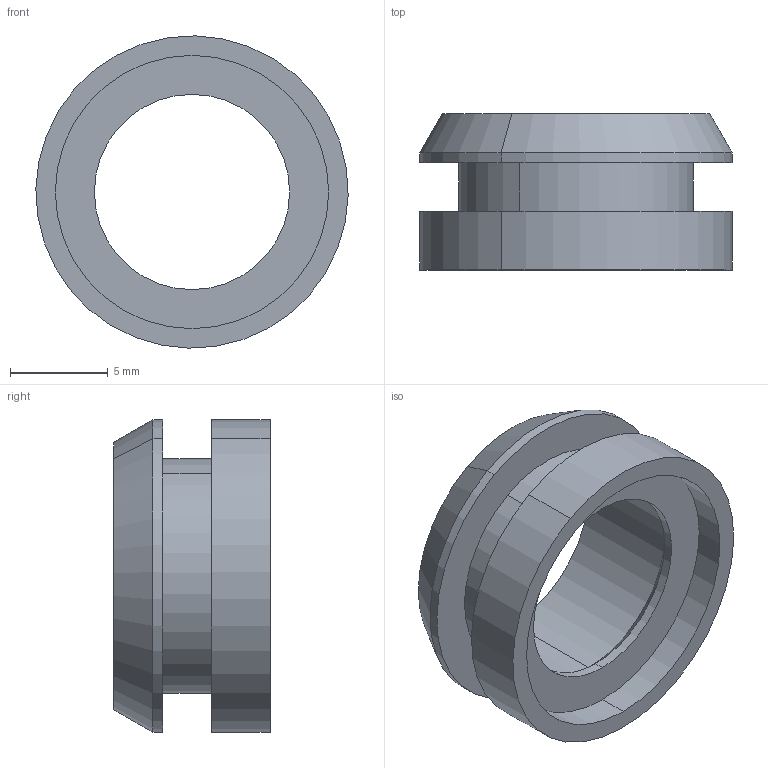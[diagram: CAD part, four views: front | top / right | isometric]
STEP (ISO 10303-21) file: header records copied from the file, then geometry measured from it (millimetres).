
FILE_DESCRIPTION(('CATIA V5 STEP Exchange','CAx-IF Rec.Pracs.--- Model Styling and Organization---1.4--- 2014-01-23','CAx-IF Rec.Pracs.---3D Tessellated Data Validation Properties---0.5---2014-09-14'),'2;1');
FILE_NAME('\\Nas_bts_indus\prod$\RESSOURCES\PROFS\CGM\2022 ressources jour J\Sujet\PROD Tournage\retainer\Solution 1\Retainer.stp','2022-07-04T11:41:20+00:00',('none'),('none'),'CATIA Version 5-6 Release 2018 SP6','CATIA V5 STEP AP242','none');
FILE_SCHEMA(('AP242_MANAGED_MODEL_BASED_3D_ENGINEERING_MIM_LF {1 0 10303 442 1 1 4}'));
Length unit declared in the file: millimetre
Products named in the file (1): Retainer
Bounding box: 16 x 8 x 16 mm (x, y, z)
Volume: 497.1 mm3; surface area: 1023.6 mm2
Topology: 1 solids, 1 shells, 21 faces, 56 edges, 43 vertices
Faces by surface type: cylinder 12, plane 5, cone 4
Entity records: 645 total; most frequent: CARTESIAN_POINT 125, ORIENTED_EDGE 84, DIRECTION 82, EDGE_CURVE 42, AXIS2_PLACEMENT_3D 40, VECTOR 30, LINE 30, CIRCLE 26
